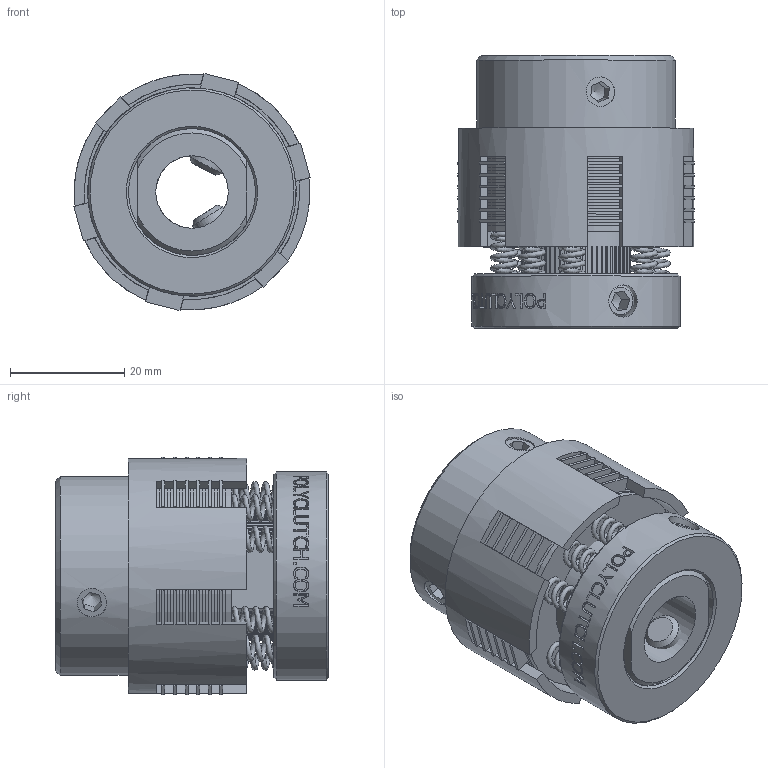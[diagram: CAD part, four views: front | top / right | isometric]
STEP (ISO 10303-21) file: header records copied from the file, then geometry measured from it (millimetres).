
FILE_DESCRIPTION((''),'2;1');
FILE_NAME('P:\Public\3-D CLUTCH ASSEMBLY FILES\EFS32\EFS32.stp','2013-01-21T15:32:42',('TodLob'),(''),'Autodesk Inventor 2011','Autodesk Inventor 2011','');
FILE_SCHEMA(('AUTOMOTIVE_DESIGN { 1 0 10303 214 1 1 1 1 }'));
Length unit declared in the file: inch
Products named in the file (12): EFS32; S3212-8; E3213; S3215; S3221; S3219; S3238; S3217-9-F; S3214F; E3209S-8; Hexagon Socket Set Screw - Flat Point - Inch 1_4-28 UNF x 0; Type A - Hexagon Socket Set Screw - Cup Point - Inch 1_4-28 UNF x 0
Assembly tree (42 placements, depth 2):
  EFS32
    S3212-8
    E3213  x6
    S3215  x6
    S3221  x12
    S3219
    S3238
    S3217-9-F
    S3214F  x9
    E3209S-8
    Hexagon Socket Set Screw - Flat Point - Inch 1_4-28 UNF x 0  x2
    Type A - Hexagon Socket Set Screw - Cup Point - Inch 1_4-28 UNF x 0  x2
Bounding box: 41.42 x 47.78 x 41.53 mm (x, y, z)
Volume: 38963.9 mm3; surface area: 58208.7 mm2
Topology: 42 solids, 42 shells, 864 faces, 2096 edges, 1379 vertices
Faces by surface type: plane 590, cylinder 133, bspline 109, cone 30, torus 2
Full cylindrical faces by diameter (mm): 4.851 x9, 5.156 x2, 5.613 x2, 6.35 x4, 12.7 x2, 19.05 x1, 19.101 x1, 22.225 x1, 22.327 x12, 23.8 x6, 31.75 x1, 34.925 x1, 36.5 x19, 36.513 x1, 37.694 x1, 41.275 x1
Entity records: 45178 total; most frequent: CARTESIAN_POINT 30988, ORIENTED_EDGE 2842, DIRECTION 2590, EDGE_CURVE 1421, VERTEX_POINT 966, VECTOR 904, LINE 904, AXIS2_PLACEMENT_3D 843
